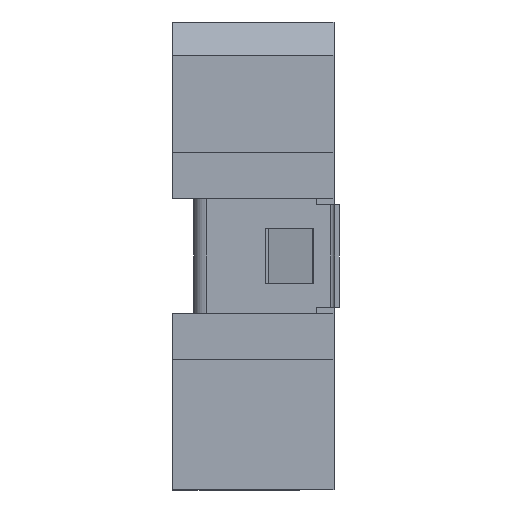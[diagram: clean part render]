
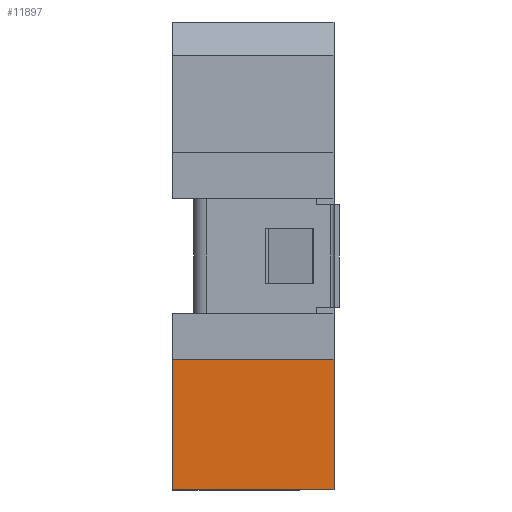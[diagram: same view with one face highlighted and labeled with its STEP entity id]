
A CAD part, left-side view. The second image highlights one B-rep face of the part: STEP entity #11897.
In plain terms, the highlighted planar face has unit normal (-1, 0, 0).
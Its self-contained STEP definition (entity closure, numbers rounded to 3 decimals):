
#647 = FACE_OUTER_BOUND ( 'NONE', #11942, .T. ) ;
#4424 = CARTESIAN_POINT ( 'NONE',  ( -9.293, 1.519, -8.059 ) ) ;
#4425 = DIRECTION ( 'NONE',  ( 0., 0., -1. ) ) ;
#4426 = DIRECTION ( 'NONE',  ( 1., 0., 0. ) ) ;
#4427 = AXIS2_PLACEMENT_3D ( 'NONE', #4424, #4426, #4425 ) ;
#4428 = PLANE ( 'NONE',  #4427 ) ;
#5241 = VECTOR ( 'NONE', #5772, 1000. ) ;
#5723 = CARTESIAN_POINT ( 'NONE',  ( -9.293, 1.519, -3.588 ) ) ;
#5724 = LINE ( 'NONE', #5723, #5241 ) ;
#5731 = CARTESIAN_POINT ( 'NONE',  ( -9.293, 1.519, -8.059 ) ) ;
#5732 = LINE ( 'NONE', #5731, #5756 ) ;
#5733 = DIRECTION ( 'NONE',  ( 0., -1., 0. ) ) ;
#5756 = VECTOR ( 'NONE', #5733, 1000. ) ;
#5772 = DIRECTION ( 'NONE',  ( 0., -1., 0. ) ) ;
#7445 = DIRECTION ( 'NONE',  ( 0., 0., 1. ) ) ;
#7446 = VECTOR ( 'NONE', #7445, 1000. ) ;
#7447 = CARTESIAN_POINT ( 'NONE',  ( -9.293, 1.519, -8.059 ) ) ;
#7448 = LINE ( 'NONE', #7447, #7446 ) ;
#7818 = CARTESIAN_POINT ( 'NONE',  ( -9.293, 1.519, -8.059 ) ) ;
#8107 = DIRECTION ( 'NONE',  ( 0., 0., 1. ) ) ;
#8108 = VECTOR ( 'NONE', #8107, 1000. ) ;
#8109 = CARTESIAN_POINT ( 'NONE',  ( -9.293, -3.993, -8.059 ) ) ;
#8110 = LINE ( 'NONE', #8109, #8108 ) ;
#8175 = CARTESIAN_POINT ( 'NONE',  ( -9.293, -3.993, -3.588 ) ) ;
#8257 = CARTESIAN_POINT ( 'NONE',  ( -9.293, -3.993, -8.059 ) ) ;
#10064 = CARTESIAN_POINT ( 'NONE',  ( -9.293, 1.519, -3.588 ) ) ;
#11887 = ORIENTED_EDGE ( 'NONE', *, *, #13513, .F. ) ;
#11888 = ORIENTED_EDGE ( 'NONE', *, *, #11965, .T. ) ;
#11897 = ADVANCED_FACE ( 'NONE', ( #647 ), #4428, .F. ) ;
#11942 = EDGE_LOOP ( 'NONE', ( #11974, #11975, #11887, #11888 ) ) ;
#11965 = EDGE_CURVE ( 'NONE', #13651, #13940, #5732, .T. ) ;
#11974 = ORIENTED_EDGE ( 'NONE', *, *, #13853, .T. ) ;
#11975 = ORIENTED_EDGE ( 'NONE', *, *, #11976, .F. ) ;
#11976 = EDGE_CURVE ( 'NONE', #13220, #13933, #5724, .T. ) ;
#13220 = VERTEX_POINT ( 'NONE', #10064 ) ;
#13513 = EDGE_CURVE ( 'NONE', #13651, #13220, #7448, .T. ) ;
#13651 = VERTEX_POINT ( 'NONE', #7818 ) ;
#13853 = EDGE_CURVE ( 'NONE', #13940, #13933, #8110, .T. ) ;
#13933 = VERTEX_POINT ( 'NONE', #8175 ) ;
#13940 = VERTEX_POINT ( 'NONE', #8257 ) ;
